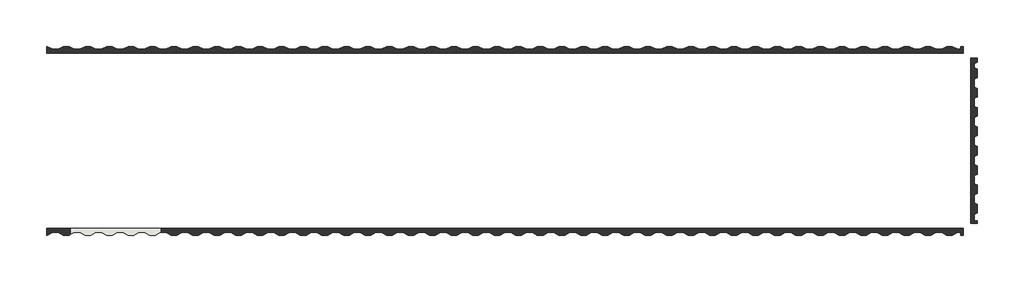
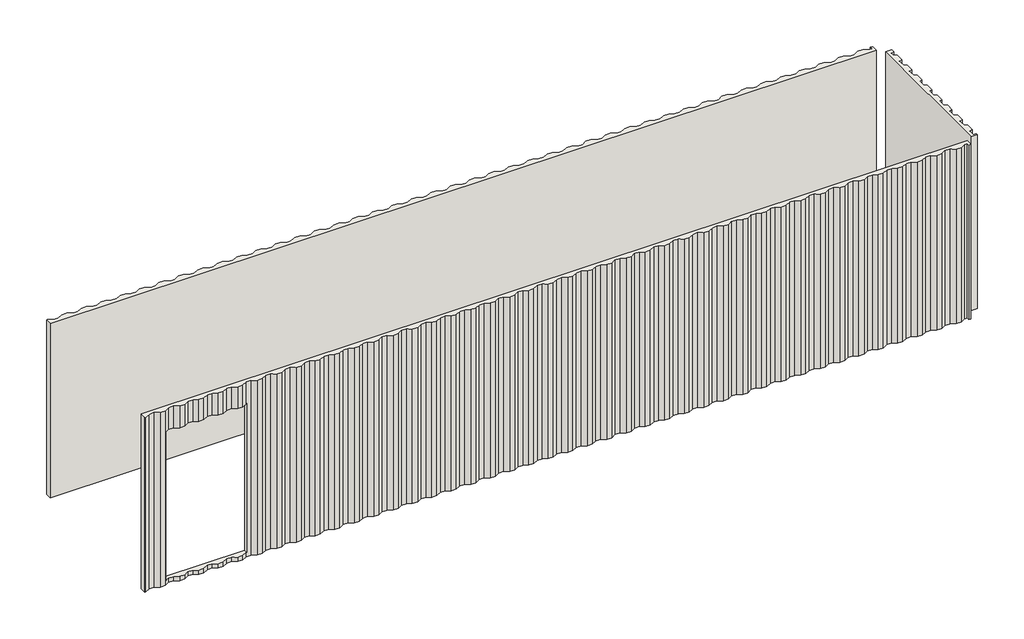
# One storey, incomplete: 3 walls.
"""IFC4 building model written with IfcOpenShell, lengths in millimetres."""

from ifc_helpers import new_model, si_unit, origin, place, context, project, spatial, transform, mapped, element, save
from components import walls_1_walls_2_2b18bc49, walls_3_walls_2_973bfb74, walls_7_walls_2_49b3b5f7

model = new_model("IFC4")

# Units and contexts
model_context = context("Model", 3, world=origin())
ifc_project = project(units=[si_unit("LENGTHUNIT", "METRE", prefix="MILLI")], contexts=[model_context])

# Site, building, storey
site = spatial("IfcSite", under=ifc_project)
building = spatial("IfcBuilding", under=site)
storey = spatial("IfcBuildingStorey", under=building, Name="B.O. Footing", Elevation=0.0)

# Walls
placement = place(None, origin())
walls_1_walls_2_shape = walls_1_walls_2_2b18bc49(model_context)
element("IfcWall", 1, ObjectType="Walls 1 : Walls 2", at=placement, inside=storey, context=model_context, shape_type="MappedRepresentation", body=[
    mapped(walls_1_walls_2_shape, transform((0.0, 0.0, 0.0), x_axis=(1.0, 0.0, 0.0), y_axis=(0.0, 1.0, 0.0), z_axis=(0.0, 0.0, 1.0))),
])
walls_3_walls_2_shape = walls_3_walls_2_973bfb74(model_context)
element("IfcWall", 2, ObjectType="Walls 3 : Walls 2", at=placement, inside=storey, context=model_context, shape_type="MappedRepresentation", body=[
    mapped(walls_3_walls_2_shape, transform((6096.9894444, 0.0, 0.0), x_axis=(1.0, 0.0, 0.0), y_axis=(0.0, 1.0, 0.0), z_axis=(0.0, 0.0, 1.0))),
])
walls_7_walls_2_shape = walls_7_walls_2_49b3b5f7(model_context)
element("IfcWall", 3, ObjectType="Walls 7 : Walls 2", at=placement, inside=storey, context=model_context, shape_type="MappedRepresentation", body=[
    mapped(walls_7_walls_2_shape, transform((0.0, 0.0, 0.0), x_axis=(1.0, 0.0, 0.0), y_axis=(0.0, 1.0, 0.0), z_axis=(0.0, 0.0, 1.0))),
])

save(model, "model.ifc")
